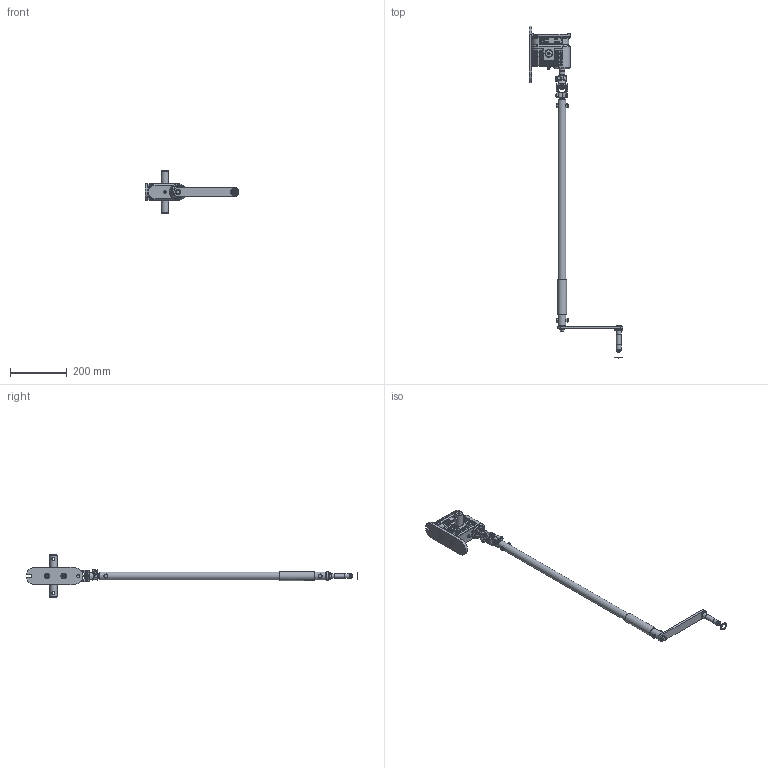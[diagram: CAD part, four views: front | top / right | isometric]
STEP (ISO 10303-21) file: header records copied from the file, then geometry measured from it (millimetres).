
FILE_DESCRIPTION(/* description */ (''),/* implementation_level */ '2;1');
FILE_NAME(/* name */ 'C:\Users\nesvadba\Downloads\52110_1201_06.stp',/* time_stamp */ '2024-02-22T17:43:39+01:00',/* author */ ('nesvadba'),/* organization */ (''),/* preprocessor_version */ 'ST-DEVELOPER v18.1',/* originating_system */ 'Autodesk Inventor 2022',/* authorisation */ '');
FILE_SCHEMA (('CONFIG_CONTROL_DESIGN'));
Products named in the file (1): 52110_1201_06
Bounding box: 331.54 x 1170.99 x 150 mm (x, y, z)
Volume: 844651.7 mm3; surface area: 396242.4 mm2
Topology: 45 solids, 46 shells, 2982 faces, 7714 edges, 4968 vertices
Faces by surface type: plane 1295, bspline 739, cylinder 473, torus 245, cone 221, sphere 9
Full cylindrical faces by diameter (mm): 1.5 x1, 2.5 x4, 4 x1, 6.8 x1, 7 x1, 8 x10, 8.2 x2, 8.5 x2, 9 x1, 9.9 x1, 10 x2, 10.04 x8, 10.2 x3, 10.5 x2, 11 x1, 13 x4, 13.9 x1, 14 x1, 14.2 x4, 14.8 x4, 15.04 x4, 16 x10, 16.4 x1, 16.8 x1, 17.1 x1, 18 x1, 19 x2, 19.9 x1, 20 x7, 21.2 x1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
Entity records: 133678 total; most frequent: CARTESIAN_POINT 64252, ORIENTED_EDGE 15376, DIRECTION 12086, EDGE_CURVE 7688, VERTEX_POINT 4968, AXIS2_PLACEMENT_3D 4055, LINE 3976, VECTOR 3976
